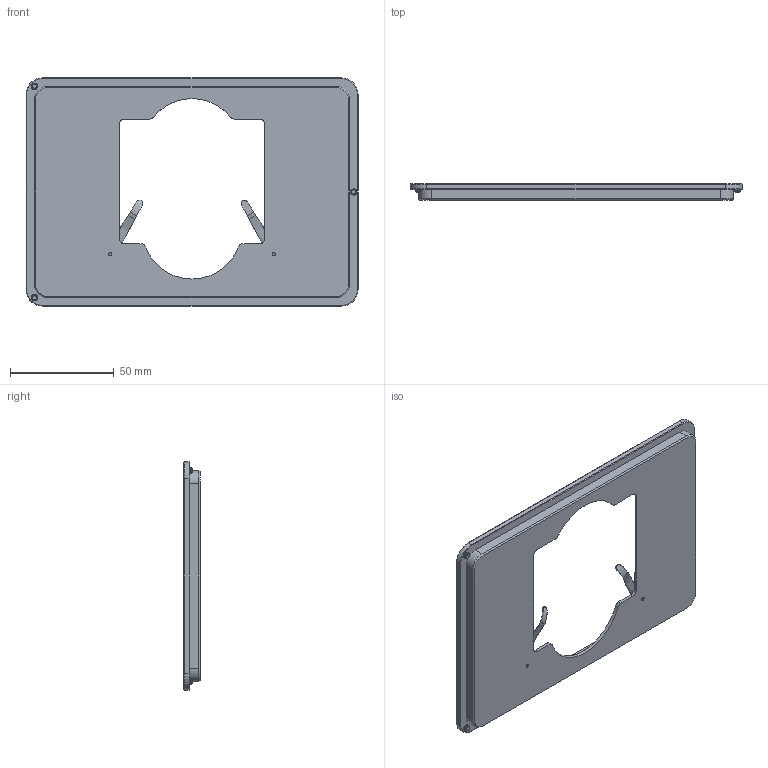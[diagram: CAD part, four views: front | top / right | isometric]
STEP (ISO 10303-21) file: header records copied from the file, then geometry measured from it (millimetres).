
FILE_DESCRIPTION (( 'STEP AP214' ), '1' );
FILE_NAME ('I-3027 (CATALOG MODEL).STEP', '2025-06-23T17:25:39', ( '' ), ( '' ), 'SwSTEP 2.0', 'SolidWorks 2023', '' );
FILE_SCHEMA (( 'AUTOMOTIVE_DESIGN' ));
Length unit declared in the file: inch
Products named in the file (1): I-3027 (CATALOG MODEL)
Bounding box: 159.77 x 7.95 x 109.73 mm (x, y, z)
Volume: 56394.4 mm3; surface area: 31390.4 mm2
Topology: 10 solids, 10 shells, 384 faces, 963 edges, 601 vertices
Faces by surface type: cylinder 165, plane 117, cone 79, bspline 15, torus 8
Entity records: 20496 total; most frequent: CARTESIAN_POINT 9178, ORIENTED_EDGE 1914, DIRECTION 1608, EDGE_CURVE 957, AXIS2_PLACEMENT_3D 608, VERTEX_POINT 601, EDGE_LOOP 408, VECTOR 392
